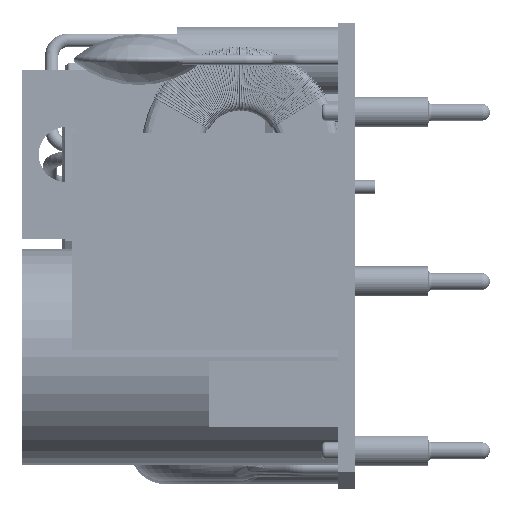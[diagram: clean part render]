
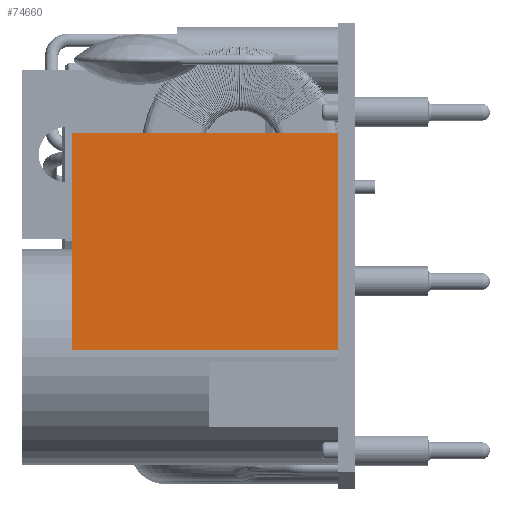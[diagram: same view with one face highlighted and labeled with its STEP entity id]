
A CAD part, left-side view. The second image highlights one B-rep face of the part: STEP entity #74660.
In plain terms, the highlighted planar face has unit normal (-1, 0, 0).
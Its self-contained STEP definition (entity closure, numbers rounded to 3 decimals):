
#3313 = FACE_OUTER_BOUND ( 'NONE', #99798, .T. ) ;
#7696 = CARTESIAN_POINT ( 'NONE',  ( 51.465, 68.8, 16. ) ) ;
#9150 = CARTESIAN_POINT ( 'NONE',  ( 51.465, 68.8, 0. ) ) ;
#13064 = DIRECTION ( 'NONE',  ( 0., 0., -1. ) ) ;
#15277 = DIRECTION ( 'NONE',  ( 1., 0., 0. ) ) ;
#16227 = ORIENTED_EDGE ( 'NONE', *, *, #113909, .F. ) ;
#16531 = AXIS2_PLACEMENT_3D ( 'NONE', #54283, #15277, #44882 ) ;
#23665 = CARTESIAN_POINT ( 'NONE',  ( 51.465, 55.8, 16. ) ) ;
#23924 = CARTESIAN_POINT ( 'NONE',  ( 51.465, 68.8, 16. ) ) ;
#27240 = DIRECTION ( 'NONE',  ( 0., 0., -1. ) ) ;
#31940 = VECTOR ( 'NONE', #13064, 1000. ) ;
#40824 = CARTESIAN_POINT ( 'NONE',  ( 51.465, 55.8, 16. ) ) ;
#41748 = EDGE_CURVE ( 'NONE', #116954, #47590, #119916, .T. ) ;
#44400 = EDGE_CURVE ( 'NONE', #69383, #100639, #102342, .T. ) ;
#44882 = DIRECTION ( 'NONE',  ( 0., 0., -1. ) ) ;
#46304 = VECTOR ( 'NONE', #27240, 1000. ) ;
#47590 = VERTEX_POINT ( 'NONE', #58724 ) ;
#53972 = CARTESIAN_POINT ( 'NONE',  ( 51.465, 68.8, 0. ) ) ;
#54283 = CARTESIAN_POINT ( 'NONE',  ( 51.465, 68.8, 16. ) ) ;
#58724 = CARTESIAN_POINT ( 'NONE',  ( 51.465, 55.8, 0. ) ) ;
#59796 = ORIENTED_EDGE ( 'NONE', *, *, #41748, .F. ) ;
#69383 = VERTEX_POINT ( 'NONE', #73719 ) ;
#73719 = CARTESIAN_POINT ( 'NONE',  ( 51.465, 68.8, 16. ) ) ;
#74660 = ADVANCED_FACE ( 'NONE', ( #3313 ), #122967, .F. ) ;
#89432 = VECTOR ( 'NONE', #116397, 1000. ) ;
#91203 = DIRECTION ( 'NONE',  ( 0., -1., 0. ) ) ;
#99798 = EDGE_LOOP ( 'NONE', ( #115465, #59796, #16227, #124428 ) ) ;
#100033 = LINE ( 'NONE', #23924, #110720 ) ;
#100639 = VERTEX_POINT ( 'NONE', #53972 ) ;
#102342 = LINE ( 'NONE', #7696, #46304 ) ;
#110720 = VECTOR ( 'NONE', #91203, 1000. ) ;
#113788 = EDGE_CURVE ( 'NONE', #100639, #47590, #115344, .T. ) ;
#113909 = EDGE_CURVE ( 'NONE', #69383, #116954, #100033, .T. ) ;
#115344 = LINE ( 'NONE', #9150, #89432 ) ;
#115465 = ORIENTED_EDGE ( 'NONE', *, *, #113788, .T. ) ;
#116397 = DIRECTION ( 'NONE',  ( 0., -1., 0. ) ) ;
#116954 = VERTEX_POINT ( 'NONE', #40824 ) ;
#119916 = LINE ( 'NONE', #23665, #31940 ) ;
#122967 = PLANE ( 'NONE',  #16531 ) ;
#124428 = ORIENTED_EDGE ( 'NONE', *, *, #44400, .T. ) ;
